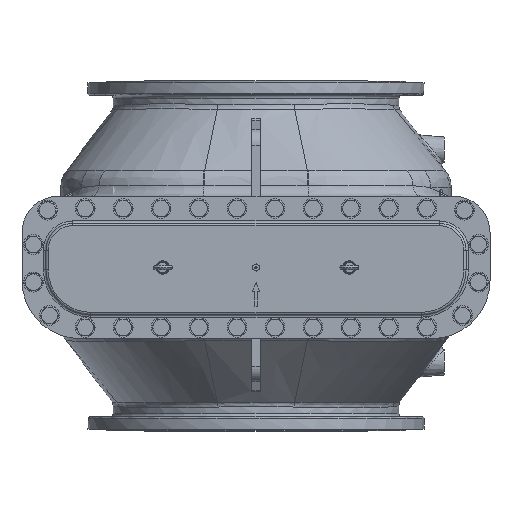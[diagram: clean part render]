
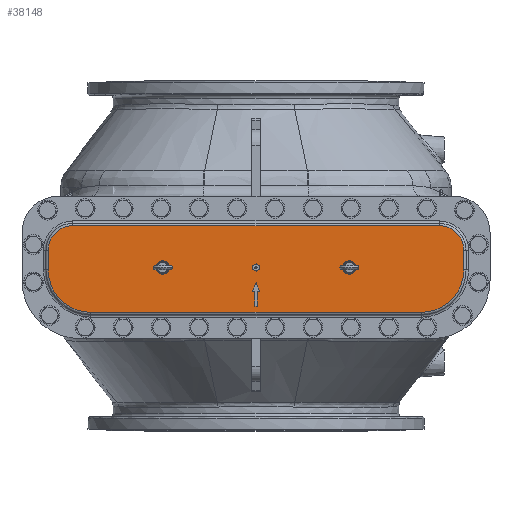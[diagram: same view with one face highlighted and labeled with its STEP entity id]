
A CAD part, top view. The second image highlights one B-rep face of the part: STEP entity #38148.
In plain terms, the highlighted planar face has unit normal (0, 0, 1) as drawn and (0, 0, -1) by its records, which use the part's own axes.
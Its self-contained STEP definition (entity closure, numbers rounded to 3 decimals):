
#758=FACE_BOUND('',#8575,.T.);
#759=FACE_BOUND('',#8576,.T.);
#760=FACE_BOUND('',#8577,.T.);
#761=FACE_BOUND('',#8578,.T.);
#1317=PLANE('',#41569);
#6159=FACE_OUTER_BOUND('',#8574,.T.);
#8574=EDGE_LOOP('',(#33318,#33319,#33320,#33321,#33322,#33323,#33324,#33325));
#8575=EDGE_LOOP('',(#33326,#33327,#33328,#33329,#33330,#33331,#33332));
#8576=EDGE_LOOP('',(#33333));
#8577=EDGE_LOOP('',(#33334,#33335));
#8578=EDGE_LOOP('',(#33336));
#10781=LINE('',#83496,#12920);
#10785=LINE('',#83504,#12924);
#10788=LINE('',#83510,#12927);
#10791=LINE('',#83516,#12930);
#10794=LINE('',#83522,#12933);
#10797=LINE('',#83528,#12936);
#10800=LINE('',#83533,#12939);
#10802=LINE('',#83547,#12941);
#10803=LINE('',#83551,#12942);
#10804=LINE('',#83555,#12943);
#10805=LINE('',#83558,#12944);
#12920=VECTOR('',#49907,10.);
#12924=VECTOR('',#49913,10.);
#12927=VECTOR('',#49918,10.);
#12930=VECTOR('',#49923,10.);
#12933=VECTOR('',#49928,10.);
#12936=VECTOR('',#49933,10.);
#12939=VECTOR('',#49938,10.);
#12941=VECTOR('',#49954,10.);
#12942=VECTOR('',#49957,10.);
#12943=VECTOR('',#49960,10.);
#12944=VECTOR('',#49963,10.);
#14969=CIRCLE('',#41568,22.897);
#14970=CIRCLE('',#41570,142.);
#14971=CIRCLE('',#41571,82.);
#14972=CIRCLE('',#41572,82.);
#14973=CIRCLE('',#41573,142.);
#14974=CIRCLE('',#41574,22.897);
#14975=CIRCLE('',#41575,9.315);
#14976=CIRCLE('',#41576,9.315);
#18295=VERTEX_POINT('',#83494);
#18296=VERTEX_POINT('',#83495);
#18299=VERTEX_POINT('',#83503);
#18301=VERTEX_POINT('',#83509);
#18303=VERTEX_POINT('',#83515);
#18305=VERTEX_POINT('',#83521);
#18307=VERTEX_POINT('',#83527);
#18310=VERTEX_POINT('',#83539);
#18311=VERTEX_POINT('',#83543);
#18312=VERTEX_POINT('',#83544);
#18313=VERTEX_POINT('',#83546);
#18314=VERTEX_POINT('',#83548);
#18315=VERTEX_POINT('',#83550);
#18316=VERTEX_POINT('',#83552);
#18317=VERTEX_POINT('',#83554);
#18318=VERTEX_POINT('',#83556);
#18319=VERTEX_POINT('',#83559);
#18320=VERTEX_POINT('',#83561);
#18321=VERTEX_POINT('',#83562);
#23388=EDGE_CURVE('',#18295,#18296,#10781,.T.);
#23392=EDGE_CURVE('',#18296,#18299,#10785,.T.);
#23395=EDGE_CURVE('',#18299,#18301,#10788,.T.);
#23398=EDGE_CURVE('',#18301,#18303,#10791,.T.);
#23401=EDGE_CURVE('',#18303,#18305,#10794,.T.);
#23404=EDGE_CURVE('',#18305,#18307,#10797,.T.);
#23407=EDGE_CURVE('',#18307,#18295,#10800,.T.);
#23411=EDGE_CURVE('',#18310,#18310,#14969,.T.);
#23412=EDGE_CURVE('',#18311,#18312,#14970,.T.);
#23413=EDGE_CURVE('',#18313,#18311,#10802,.T.);
#23414=EDGE_CURVE('',#18314,#18313,#14971,.T.);
#23415=EDGE_CURVE('',#18315,#18314,#10803,.T.);
#23416=EDGE_CURVE('',#18316,#18315,#14972,.T.);
#23417=EDGE_CURVE('',#18317,#18316,#10804,.T.);
#23418=EDGE_CURVE('',#18318,#18317,#14973,.T.);
#23419=EDGE_CURVE('',#18312,#18318,#10805,.T.);
#23420=EDGE_CURVE('',#18319,#18319,#14974,.T.);
#23421=EDGE_CURVE('',#18320,#18321,#14975,.T.);
#23422=EDGE_CURVE('',#18321,#18320,#14976,.T.);
#33318=ORIENTED_EDGE('',*,*,#23412,.F.);
#33319=ORIENTED_EDGE('',*,*,#23413,.F.);
#33320=ORIENTED_EDGE('',*,*,#23414,.F.);
#33321=ORIENTED_EDGE('',*,*,#23415,.F.);
#33322=ORIENTED_EDGE('',*,*,#23416,.F.);
#33323=ORIENTED_EDGE('',*,*,#23417,.F.);
#33324=ORIENTED_EDGE('',*,*,#23418,.F.);
#33325=ORIENTED_EDGE('',*,*,#23419,.F.);
#33326=ORIENTED_EDGE('',*,*,#23388,.T.);
#33327=ORIENTED_EDGE('',*,*,#23392,.T.);
#33328=ORIENTED_EDGE('',*,*,#23395,.T.);
#33329=ORIENTED_EDGE('',*,*,#23398,.T.);
#33330=ORIENTED_EDGE('',*,*,#23401,.T.);
#33331=ORIENTED_EDGE('',*,*,#23404,.T.);
#33332=ORIENTED_EDGE('',*,*,#23407,.T.);
#33333=ORIENTED_EDGE('',*,*,#23420,.F.);
#33334=ORIENTED_EDGE('',*,*,#23421,.T.);
#33335=ORIENTED_EDGE('',*,*,#23422,.T.);
#33336=ORIENTED_EDGE('',*,*,#23411,.F.);
#38148=ADVANCED_FACE('',(#6159,#758,#759,#760,#761),#1317,.F.);
#41568=AXIS2_PLACEMENT_3D('',#83541,#49948,#49949);
#41569=AXIS2_PLACEMENT_3D('',#83542,#49950,#49951);
#41570=AXIS2_PLACEMENT_3D('',#83545,#49952,#49953);
#41571=AXIS2_PLACEMENT_3D('',#83549,#49955,#49956);
#41572=AXIS2_PLACEMENT_3D('',#83553,#49958,#49959);
#41573=AXIS2_PLACEMENT_3D('',#83557,#49961,#49962);
#41574=AXIS2_PLACEMENT_3D('',#83560,#49964,#49965);
#41575=AXIS2_PLACEMENT_3D('',#83563,#49966,#49967);
#41576=AXIS2_PLACEMENT_3D('',#83564,#49968,#49969);
#49907=DIRECTION('',(0.,1.,0.));
#49913=DIRECTION('',(-0.924,-0.383,0.));
#49918=DIRECTION('',(0.924,-0.383,0.));
#49923=DIRECTION('',(0.,1.,0.));
#49928=DIRECTION('',(1.,0.,0.));
#49933=DIRECTION('',(0.,1.,0.));
#49938=DIRECTION('',(-1.,0.,0.));
#49948=DIRECTION('center_axis',(0.,0.,-1.));
#49949=DIRECTION('ref_axis',(1.,0.,0.));
#49950=DIRECTION('center_axis',(0.,0.,1.));
#49951=DIRECTION('ref_axis',(1.,0.,0.));
#49952=DIRECTION('center_axis',(0.,0.,1.));
#49953=DIRECTION('ref_axis',(0.707,-0.707,0.));
#49954=DIRECTION('',(1.,0.,0.));
#49955=DIRECTION('center_axis',(0.,0.,1.));
#49956=DIRECTION('ref_axis',(-0.707,-0.707,0.));
#49957=DIRECTION('',(0.,-1.,0.));
#49958=DIRECTION('center_axis',(0.,0.,1.));
#49959=DIRECTION('ref_axis',(-0.707,0.707,0.));
#49960=DIRECTION('',(-1.,0.,0.));
#49961=DIRECTION('center_axis',(0.,0.,1.));
#49962=DIRECTION('ref_axis',(0.707,0.707,0.));
#49963=DIRECTION('',(0.,1.,0.));
#49964=DIRECTION('center_axis',(0.,0.,-1.));
#49965=DIRECTION('ref_axis',(1.,0.,0.));
#49966=DIRECTION('center_axis',(0.,0.,1.));
#49967=DIRECTION('ref_axis',(-1.,0.,0.));
#49968=DIRECTION('center_axis',(0.,0.,1.));
#49969=DIRECTION('ref_axis',(-1.,0.,0.));
#83494=CARTESIAN_POINT('',(80.,5.,-20.));
#83495=CARTESIAN_POINT('',(80.,12.426,-20.));
#83496=CARTESIAN_POINT('',(80.,6.213,-20.));
#83503=CARTESIAN_POINT('',(50.,0.,-20.));
#83504=CARTESIAN_POINT('',(28.961,-8.715,-20.));
#83509=CARTESIAN_POINT('',(80.,-12.426,-20.));
#83510=CARTESIAN_POINT('',(43.961,2.501,-20.));
#83515=CARTESIAN_POINT('',(80.,-5.,-20.));
#83516=CARTESIAN_POINT('',(80.,-2.5,-20.));
#83521=CARTESIAN_POINT('',(130.,-5.,-20.));
#83522=CARTESIAN_POINT('',(65.351,-5.,-20.));
#83527=CARTESIAN_POINT('',(130.,5.,-20.));
#83528=CARTESIAN_POINT('',(130.,2.5,-20.));
#83533=CARTESIAN_POINT('',(40.351,5.,-20.));
#83539=CARTESIAN_POINT('',(-22.897,-312.,-20.));
#83541=CARTESIAN_POINT('Origin',(0.,-312.,-20.));
#83542=CARTESIAN_POINT('Origin',(0.702,0.,
-20.));
#83543=CARTESIAN_POINT('',(8.,-695.,-20.));
#83544=CARTESIAN_POINT('',(150.,-553.,-20.));
#83545=CARTESIAN_POINT('Origin',(8.,-553.,-20.));
#83546=CARTESIAN_POINT('',(-58.,-695.,-20.));
#83547=CARTESIAN_POINT('',(4.351,-695.,-20.));
#83548=CARTESIAN_POINT('',(-140.,-613.,-20.));
#83549=CARTESIAN_POINT('Origin',(-58.,-613.,-20.));
#83550=CARTESIAN_POINT('',(-140.,613.,-20.));
#83551=CARTESIAN_POINT('',(-140.,-306.5,-20.));
#83552=CARTESIAN_POINT('',(-58.,695.,-20.));
#83553=CARTESIAN_POINT('Origin',(-58.,613.,-20.));
#83554=CARTESIAN_POINT('',(8.,695.,-20.));
#83555=CARTESIAN_POINT('',(-28.649,695.,-20.));
#83556=CARTESIAN_POINT('',(150.,553.,-20.));
#83557=CARTESIAN_POINT('Origin',(8.,553.,-20.));
#83558=CARTESIAN_POINT('',(150.,276.5,-20.));
#83559=CARTESIAN_POINT('',(-22.897,312.,-20.));
#83560=CARTESIAN_POINT('Origin',(0.,312.,-20.));
#83561=CARTESIAN_POINT('',(-9.315,0.,-20.));
#83562=CARTESIAN_POINT('',(9.315,0.,-20.));
#83563=CARTESIAN_POINT('Origin',(0.,0.,-20.));
#83564=CARTESIAN_POINT('Origin',(0.,0.,-20.));
